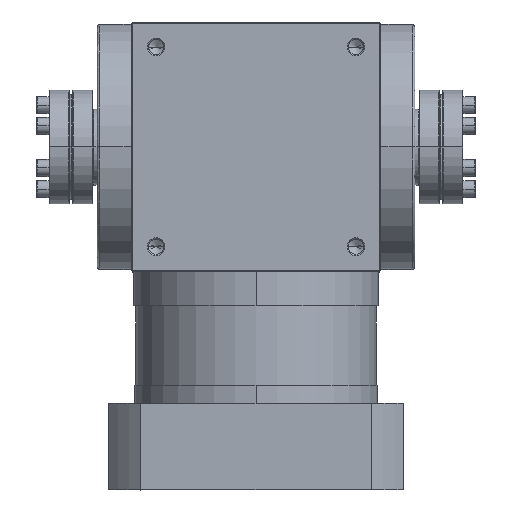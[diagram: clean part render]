
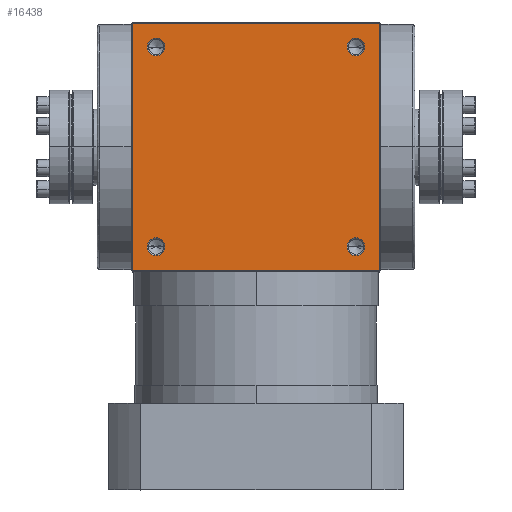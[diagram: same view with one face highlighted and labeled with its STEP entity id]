
A CAD part, top view. The second image highlights one B-rep face of the part: STEP entity #16438.
In plain terms, the highlighted planar face has unit normal (0, 0, 1).
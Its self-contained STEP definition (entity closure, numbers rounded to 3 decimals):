
#446 = EDGE_CURVE ( 'NONE', #12709, #2085, #10047, .T. ) ;
#489 = EDGE_LOOP ( 'NONE', ( #17881, #11551 ) ) ;
#522 = EDGE_LOOP ( 'NONE', ( #1877, #14677 ) ) ;
#717 = EDGE_CURVE ( 'NONE', #3910, #12206, #8960, .T. ) ;
#754 = EDGE_CURVE ( 'NONE', #2085, #12709, #8870, .T. ) ;
#1327 = DIRECTION ( 'NONE',  ( 0., -1., 0. ) ) ;
#1364 = DIRECTION ( 'NONE',  ( 0., 0., 1. ) ) ;
#1388 = CARTESIAN_POINT ( 'NONE',  ( 44., 44., 55. ) ) ;
#1394 = CARTESIAN_POINT ( 'NONE',  ( -44., -40.1, 55. ) ) ;
#1432 = VERTEX_POINT ( 'NONE', #17020 ) ;
#1495 = CARTESIAN_POINT ( 'NONE',  ( 44., -40.1, 55. ) ) ;
#1566 = FACE_BOUND ( 'NONE', #12200, .T. ) ;
#1877 = ORIENTED_EDGE ( 'NONE', *, *, #2313, .F. ) ;
#2054 = DIRECTION ( 'NONE',  ( 0., -1., 0. ) ) ;
#2085 = VERTEX_POINT ( 'NONE', #8959 ) ;
#2313 = EDGE_CURVE ( 'NONE', #13577, #6455, #4193, .T. ) ;
#3282 = CARTESIAN_POINT ( 'NONE',  ( -54.5, -54.5, 55. ) ) ;
#3650 = CIRCLE ( 'NONE', #16164, 3.9 ) ;
#3876 = EDGE_CURVE ( 'NONE', #1432, #15415, #16209, .T. ) ;
#3910 = VERTEX_POINT ( 'NONE', #6383 ) ;
#4193 = CIRCLE ( 'NONE', #6844, 3.9 ) ;
#4210 = EDGE_CURVE ( 'NONE', #15095, #15415, #15354, .T. ) ;
#4240 = VERTEX_POINT ( 'NONE', #8885 ) ;
#4491 = CARTESIAN_POINT ( 'NONE',  ( -54.5, 54.5, 55. ) ) ;
#4771 = CARTESIAN_POINT ( 'NONE',  ( -44., 44., 55. ) ) ;
#4981 = DIRECTION ( 'NONE',  ( 0., 0., 1. ) ) ;
#5092 = CIRCLE ( 'NONE', #16531, 3.9 ) ;
#5155 = CIRCLE ( 'NONE', #5340, 3.9 ) ;
#5259 = CARTESIAN_POINT ( 'NONE',  ( 54.5, -54.5, 55. ) ) ;
#5340 = AXIS2_PLACEMENT_3D ( 'NONE', #10062, #10006, #10044 ) ;
#5774 = DIRECTION ( 'NONE',  ( 0., -1., 0. ) ) ;
#6203 = DIRECTION ( 'NONE',  ( 0., -1., 0. ) ) ;
#6224 = DIRECTION ( 'NONE',  ( 0., 0., 1. ) ) ;
#6229 = ORIENTED_EDGE ( 'NONE', *, *, #15328, .F. ) ;
#6264 = CARTESIAN_POINT ( 'NONE',  ( 44., -44., 55. ) ) ;
#6342 = ORIENTED_EDGE ( 'NONE', *, *, #754, .F. ) ;
#6359 = CARTESIAN_POINT ( 'NONE',  ( -44., 44., 55. ) ) ;
#6383 = CARTESIAN_POINT ( 'NONE',  ( -44., 47.9, 55. ) ) ;
#6455 = VERTEX_POINT ( 'NONE', #1495 ) ;
#6764 = DIRECTION ( 'NONE',  ( -1., 0., 0. ) ) ;
#6844 = AXIS2_PLACEMENT_3D ( 'NONE', #6264, #6224, #6203 ) ;
#6948 = DIRECTION ( 'NONE',  ( 0., -1., 0. ) ) ;
#7547 = LINE ( 'NONE', #10980, #10236 ) ;
#7562 = EDGE_CURVE ( 'NONE', #4240, #18042, #5155, .T. ) ;
#7580 = ORIENTED_EDGE ( 'NONE', *, *, #717, .F. ) ;
#7820 = DIRECTION ( 'NONE',  ( 1., 0., 0. ) ) ;
#7922 = DIRECTION ( 'NONE',  ( 0., 0., 1. ) ) ;
#8061 = CARTESIAN_POINT ( 'NONE',  ( 54.5, -54.5, 55. ) ) ;
#8870 = CIRCLE ( 'NONE', #13280, 3.9 ) ;
#8885 = CARTESIAN_POINT ( 'NONE',  ( -44., -47.9, 55. ) ) ;
#8959 = CARTESIAN_POINT ( 'NONE',  ( 44., 40.1, 55. ) ) ;
#8960 = CIRCLE ( 'NONE', #13137, 3.9 ) ;
#9000 = VERTEX_POINT ( 'NONE', #4491 ) ;
#9012 = CARTESIAN_POINT ( 'NONE',  ( 0., -54.5, 55. ) ) ;
#9016 = DIRECTION ( 'NONE',  ( 1., 0., 0. ) ) ;
#10006 = DIRECTION ( 'NONE',  ( 0., 0., 1. ) ) ;
#10044 = DIRECTION ( 'NONE',  ( 0., -1., 0. ) ) ;
#10047 = CIRCLE ( 'NONE', #14740, 3.9 ) ;
#10062 = CARTESIAN_POINT ( 'NONE',  ( -44., -44., 55. ) ) ;
#10236 = VECTOR ( 'NONE', #12456, 1000. ) ;
#10509 = ORIENTED_EDGE ( 'NONE', *, *, #13383, .F. ) ;
#10788 = CARTESIAN_POINT ( 'NONE',  ( 44., 47.9, 55. ) ) ;
#10980 = CARTESIAN_POINT ( 'NONE',  ( -54.5, 0., 55. ) ) ;
#11282 = DIRECTION ( 'NONE',  ( 0., 0., 1. ) ) ;
#11551 = ORIENTED_EDGE ( 'NONE', *, *, #15918, .F. ) ;
#11590 = CARTESIAN_POINT ( 'NONE',  ( 44., -47.9, 55. ) ) ;
#11882 = CARTESIAN_POINT ( 'NONE',  ( 54.5, 0., 55. ) ) ;
#11955 = ORIENTED_EDGE ( 'NONE', *, *, #4210, .T. ) ;
#12200 = EDGE_LOOP ( 'NONE', ( #6342, #16838 ) ) ;
#12206 = VERTEX_POINT ( 'NONE', #15413 ) ;
#12274 = PLANE ( 'NONE',  #13450 ) ;
#12456 = DIRECTION ( 'NONE',  ( 0., 1., 0. ) ) ;
#12709 = VERTEX_POINT ( 'NONE', #10788 ) ;
#13137 = AXIS2_PLACEMENT_3D ( 'NONE', #6359, #14066, #6948 ) ;
#13280 = AXIS2_PLACEMENT_3D ( 'NONE', #16364, #17932, #2054 ) ;
#13315 = CARTESIAN_POINT ( 'NONE',  ( 44., -44., 55. ) ) ;
#13383 = EDGE_CURVE ( 'NONE', #12206, #3910, #5092, .T. ) ;
#13415 = CARTESIAN_POINT ( 'NONE',  ( 0., 54.5, 55. ) ) ;
#13445 = ORIENTED_EDGE ( 'NONE', *, *, #3876, .F. ) ;
#13450 = AXIS2_PLACEMENT_3D ( 'NONE', #8061, #15204, #6764 ) ;
#13577 = VERTEX_POINT ( 'NONE', #11590 ) ;
#13614 = DIRECTION ( 'NONE',  ( 0., -1., 0. ) ) ;
#13656 = EDGE_CURVE ( 'NONE', #6455, #13577, #3650, .T. ) ;
#13799 = FACE_OUTER_BOUND ( 'NONE', #16329, .T. ) ;
#13820 = VECTOR ( 'NONE', #7820, 1000. ) ;
#13835 = FACE_BOUND ( 'NONE', #522, .T. ) ;
#13869 = FACE_BOUND ( 'NONE', #17450, .T. ) ;
#13912 = FACE_BOUND ( 'NONE', #489, .T. ) ;
#14066 = DIRECTION ( 'NONE',  ( 0., 0., 1. ) ) ;
#14070 = AXIS2_PLACEMENT_3D ( 'NONE', #16424, #7922, #17808 ) ;
#14677 = ORIENTED_EDGE ( 'NONE', *, *, #13656, .F. ) ;
#14740 = AXIS2_PLACEMENT_3D ( 'NONE', #1388, #1364, #1327 ) ;
#14788 = DIRECTION ( 'NONE',  ( 0., -1., 0. ) ) ;
#15095 = VERTEX_POINT ( 'NONE', #3282 ) ;
#15103 = CIRCLE ( 'NONE', #14070, 3.9 ) ;
#15117 = VECTOR ( 'NONE', #9016, 1000. ) ;
#15204 = DIRECTION ( 'NONE',  ( 0., 0., -1. ) ) ;
#15328 = EDGE_CURVE ( 'NONE', #9000, #1432, #17141, .T. ) ;
#15354 = LINE ( 'NONE', #9012, #15117 ) ;
#15413 = CARTESIAN_POINT ( 'NONE',  ( -44., 40.1, 55. ) ) ;
#15415 = VERTEX_POINT ( 'NONE', #5259 ) ;
#15918 = EDGE_CURVE ( 'NONE', #18042, #4240, #15103, .T. ) ;
#16164 = AXIS2_PLACEMENT_3D ( 'NONE', #13315, #4981, #14788 ) ;
#16171 = VECTOR ( 'NONE', #13614, 1000. ) ;
#16209 = LINE ( 'NONE', #11882, #16171 ) ;
#16329 = EDGE_LOOP ( 'NONE', ( #11955, #13445, #6229, #17738 ) ) ;
#16364 = CARTESIAN_POINT ( 'NONE',  ( 44., 44., 55. ) ) ;
#16424 = CARTESIAN_POINT ( 'NONE',  ( -44., -44., 55. ) ) ;
#16438 = ADVANCED_FACE ( 'NONE', ( #13869, #1566, #13912, #13835, #13799 ), #12274, .F. ) ;
#16531 = AXIS2_PLACEMENT_3D ( 'NONE', #4771, #11282, #5774 ) ;
#16838 = ORIENTED_EDGE ( 'NONE', *, *, #446, .F. ) ;
#17020 = CARTESIAN_POINT ( 'NONE',  ( 54.5, 54.5, 55. ) ) ;
#17141 = LINE ( 'NONE', #13415, #13820 ) ;
#17450 = EDGE_LOOP ( 'NONE', ( #10509, #7580 ) ) ;
#17738 = ORIENTED_EDGE ( 'NONE', *, *, #18052, .F. ) ;
#17808 = DIRECTION ( 'NONE',  ( 0., -1., 0. ) ) ;
#17881 = ORIENTED_EDGE ( 'NONE', *, *, #7562, .F. ) ;
#17932 = DIRECTION ( 'NONE',  ( 0., 0., 1. ) ) ;
#18042 = VERTEX_POINT ( 'NONE', #1394 ) ;
#18052 = EDGE_CURVE ( 'NONE', #15095, #9000, #7547, .T. ) ;
